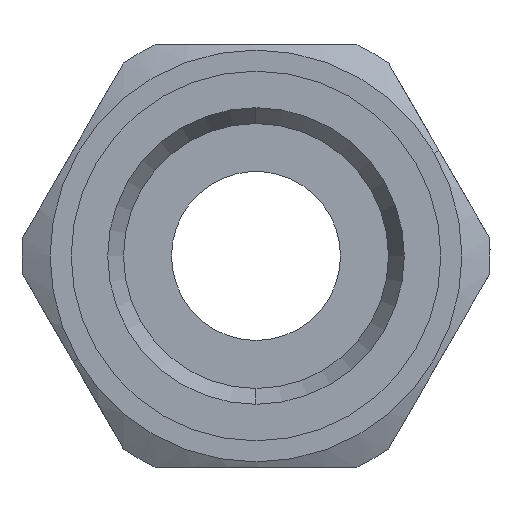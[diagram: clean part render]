
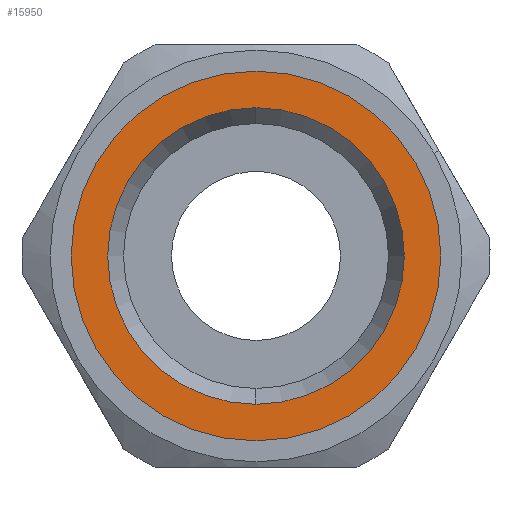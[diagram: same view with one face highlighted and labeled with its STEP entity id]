
A CAD part, front view. The second image highlights one B-rep face of the part: STEP entity #15950.
In plain terms, the highlighted planar face has unit normal (0, -1, 0).
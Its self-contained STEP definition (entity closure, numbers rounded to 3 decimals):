
#13590=CARTESIAN_POINT('',(-103.321,35.54,
-9.093));
#13600=VERTEX_POINT('',#13590);
#13680=CARTESIAN_POINT('',(-92.821,35.54,
9.093));
#13690=VERTEX_POINT('',#13680);
#13720=CARTESIAN_POINT('',(-98.071,35.54,
0.));
#13730=DIRECTION('',(0.,-1.,0.));
#13740=DIRECTION('',(-0.5,0.,-0.866));
#13750=AXIS2_PLACEMENT_3D('',#13720,#13730,#13740);
#13760=CIRCLE('',#13750,10.5);
#13770=EDGE_CURVE('',#13690,#13600,#13760,.T.);
#15660=CARTESIAN_POINT('',(-105.79,35.54,
2.884));
#15670=DIRECTION('',(0.,-1.,0.));
#15680=DIRECTION('',(1.,0.,0.));
#15690=AXIS2_PLACEMENT_3D('',#15660,#15670,#15680);
#15700=PLANE('',#15690);
#15710=CARTESIAN_POINT('',(-98.071,35.54,
0.));
#15720=DIRECTION('',(0.,-1.,0.));
#15730=DIRECTION('',(0.,0.,-1.));
#15740=AXIS2_PLACEMENT_3D('',#15710,#15720,#15730);
#15750=CIRCLE('',#15740,8.426);
#15760=CARTESIAN_POINT('',(-106.497,35.54,
0.));
#15770=VERTEX_POINT('',#15760);
#15780=CARTESIAN_POINT('',(-98.071,35.54,
-8.426));
#15790=VERTEX_POINT('',#15780);
#15800=EDGE_CURVE('',#15770,#15790,#15750,.T.);
#15810=ORIENTED_EDGE('',*,*,#15800,.F.);
#15820=CARTESIAN_POINT('',(-98.071,35.54,
8.426));
#15830=VERTEX_POINT('',#15820);
#15840=EDGE_CURVE('',#15790,#15830,#15750,.T.);
#15850=ORIENTED_EDGE('',*,*,#15840,.F.);
#15860=EDGE_CURVE('',#15830,#15770,#15750,.T.);
#15870=ORIENTED_EDGE('',*,*,#15860,.F.);
#15880=EDGE_LOOP('',(#15870,#15850,#15810));
#15890=FACE_BOUND('',#15880,.T.);
#15900=EDGE_CURVE('',#13600,#13690,#13760,.T.);
#15910=ORIENTED_EDGE('',*,*,#15900,.T.);
#15920=ORIENTED_EDGE('',*,*,#13770,.T.);
#15930=EDGE_LOOP('',(#15920,#15910));
#15940=FACE_OUTER_BOUND('',#15930,.T.);
#15950=ADVANCED_FACE('',(#15890,#15940),#15700,.T.);
